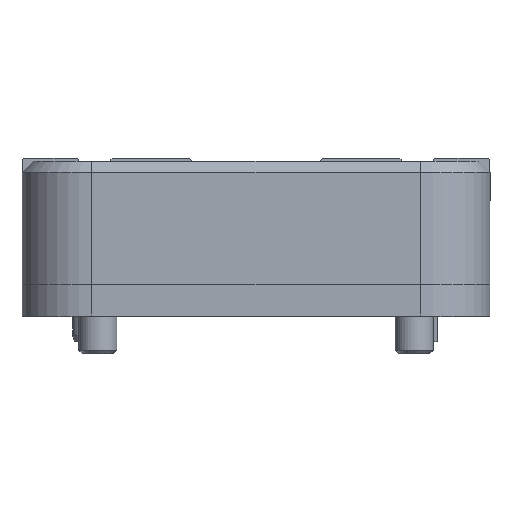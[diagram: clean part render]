
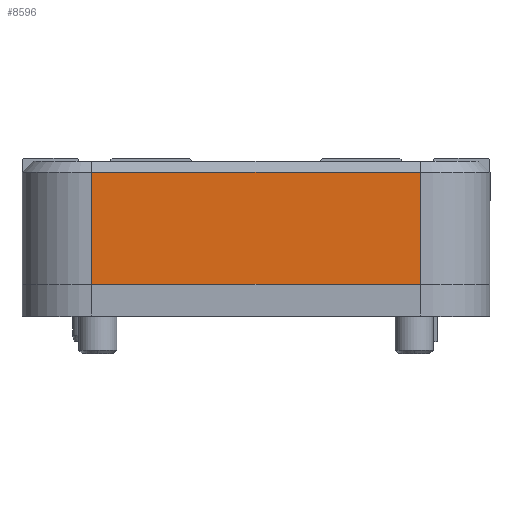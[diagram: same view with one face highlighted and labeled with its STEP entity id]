
A CAD part, top view. The second image highlights one B-rep face of the part: STEP entity #8596.
In plain terms, the highlighted planar face has unit normal (0, 0, 1).
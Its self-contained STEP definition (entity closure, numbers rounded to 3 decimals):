
#684 = CARTESIAN_POINT ( 'NONE',  ( 126., -3.5, 0. ) ) ;
#1336 = DIRECTION ( 'NONE',  ( 0., -1., 0. ) ) ;
#1337 = VECTOR ( 'NONE', #18775, 1000. ) ;
#1475 = VECTOR ( 'NONE', #12600, 1000. ) ;
#2174 = EDGE_CURVE ( 'NONE', #8301, #5932, #20189, .T. ) ;
#3057 = CARTESIAN_POINT ( 'NONE',  ( 22., 32., 0. ) ) ;
#3706 = CARTESIAN_POINT ( 'NONE',  ( 22., -3.5, 0. ) ) ;
#5016 = FACE_OUTER_BOUND ( 'NONE', #7263, .T. ) ;
#5034 = CARTESIAN_POINT ( 'NONE',  ( 0., -3.5, 0. ) ) ;
#5523 = CARTESIAN_POINT ( 'NONE',  ( 22., 32., 0. ) ) ;
#5841 = ORIENTED_EDGE ( 'NONE', *, *, #14839, .T. ) ;
#5932 = VERTEX_POINT ( 'NONE', #684 ) ;
#6487 = CARTESIAN_POINT ( 'NONE',  ( 126., 32., 0. ) ) ;
#6681 = CARTESIAN_POINT ( 'NONE',  ( 0., 32., 0. ) ) ;
#7263 = EDGE_LOOP ( 'NONE', ( #15131, #15275, #5841, #8115 ) ) ;
#8115 = ORIENTED_EDGE ( 'NONE', *, *, #11983, .F. ) ;
#8301 = VERTEX_POINT ( 'NONE', #3706 ) ;
#8596 = ADVANCED_FACE ( 'NONE', ( #5016 ), #20490, .F. ) ;
#9057 = VERTEX_POINT ( 'NONE', #6487 ) ;
#9347 = CARTESIAN_POINT ( 'NONE',  ( 126., 32., 0. ) ) ;
#10880 = CARTESIAN_POINT ( 'NONE',  ( 0., 32., 0. ) ) ;
#11983 = EDGE_CURVE ( 'NONE', #20464, #9057, #15169, .T. ) ;
#12273 = VECTOR ( 'NONE', #1336, 1000. ) ;
#12600 = DIRECTION ( 'NONE',  ( 1., 0., 0. ) ) ;
#12621 = LINE ( 'NONE', #9347, #16093 ) ;
#14839 = EDGE_CURVE ( 'NONE', #5932, #9057, #12621, .T. ) ;
#15131 = ORIENTED_EDGE ( 'NONE', *, *, #21715, .T. ) ;
#15169 = LINE ( 'NONE', #10880, #1475 ) ;
#15275 = ORIENTED_EDGE ( 'NONE', *, *, #2174, .T. ) ;
#15294 = AXIS2_PLACEMENT_3D ( 'NONE', #6681, #16931, #22254 ) ;
#16093 = VECTOR ( 'NONE', #21451, 1000. ) ;
#16931 = DIRECTION ( 'NONE',  ( 0., 0., -1. ) ) ;
#17365 = LINE ( 'NONE', #3057, #12273 ) ;
#18775 = DIRECTION ( 'NONE',  ( 1., 0., 0. ) ) ;
#20189 = LINE ( 'NONE', #5034, #1337 ) ;
#20464 = VERTEX_POINT ( 'NONE', #5523 ) ;
#20490 = PLANE ( 'NONE',  #15294 ) ;
#21451 = DIRECTION ( 'NONE',  ( 0., 1., 0. ) ) ;
#21715 = EDGE_CURVE ( 'NONE', #20464, #8301, #17365, .T. ) ;
#22254 = DIRECTION ( 'NONE',  ( -1., 0., 0. ) ) ;
